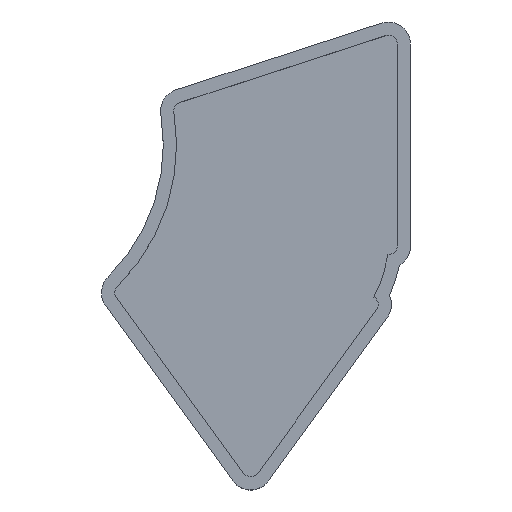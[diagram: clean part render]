
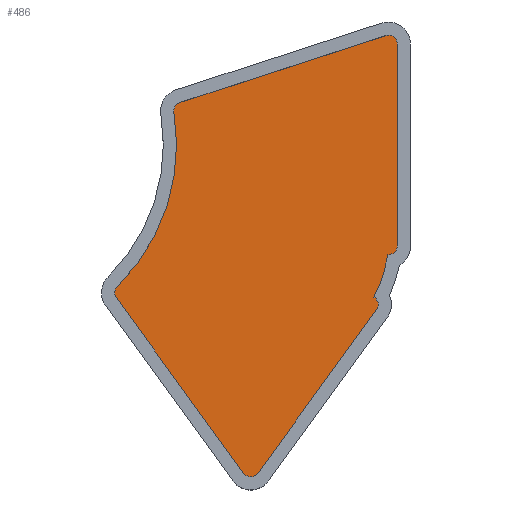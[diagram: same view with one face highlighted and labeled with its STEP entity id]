
A CAD part, top view. The second image highlights one B-rep face of the part: STEP entity #486.
In plain terms, the highlighted planar face has unit normal (0, 0, 1).
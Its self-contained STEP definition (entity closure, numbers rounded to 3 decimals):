
#20=PLANE('',#543);
#39=FACE_OUTER_BOUND('',#66,.T.);
#66=EDGE_LOOP('',(#362,#363,#364,#365,#366,#367,#368,#369,#370,#371,#372,
#373));
#84=LINE('',#746,#124);
#88=LINE('',#758,#128);
#94=LINE('',#782,#134);
#98=LINE('',#794,#138);
#124=VECTOR('',#586,9.9);
#128=VECTOR('',#598,9.9);
#134=VECTOR('',#624,9.9);
#138=VECTOR('',#636,9.9);
#162=CIRCLE('',#516,1.98);
#164=CIRCLE('',#520,1.98);
#166=CIRCLE('',#524,1.98);
#168=CIRCLE('',#527,29.928);
#170=CIRCLE('',#530,1.98);
#172=CIRCLE('',#534,1.98);
#174=CIRCLE('',#538,1.98);
#176=CIRCLE('',#541,44.55);
#194=VERTEX_POINT('',#736);
#195=VERTEX_POINT('',#737);
#198=VERTEX_POINT('',#745);
#200=VERTEX_POINT('',#751);
#202=VERTEX_POINT('',#757);
#204=VERTEX_POINT('',#763);
#206=VERTEX_POINT('',#769);
#208=VERTEX_POINT('',#775);
#210=VERTEX_POINT('',#781);
#212=VERTEX_POINT('',#787);
#214=VERTEX_POINT('',#793);
#216=VERTEX_POINT('',#799);
#242=EDGE_CURVE('',#194,#195,#162,.F.);
#246=EDGE_CURVE('',#198,#194,#84,.F.);
#249=EDGE_CURVE('',#200,#198,#164,.F.);
#252=EDGE_CURVE('',#202,#200,#88,.F.);
#255=EDGE_CURVE('',#204,#202,#166,.F.);
#258=EDGE_CURVE('',#206,#204,#168,.F.);
#261=EDGE_CURVE('',#208,#206,#170,.F.);
#264=EDGE_CURVE('',#210,#208,#94,.F.);
#267=EDGE_CURVE('',#212,#210,#172,.F.);
#270=EDGE_CURVE('',#214,#212,#98,.F.);
#273=EDGE_CURVE('',#216,#214,#174,.F.);
#276=EDGE_CURVE('',#195,#216,#176,.F.);
#362=ORIENTED_EDGE('',*,*,#276,.T.);
#363=ORIENTED_EDGE('',*,*,#273,.T.);
#364=ORIENTED_EDGE('',*,*,#270,.T.);
#365=ORIENTED_EDGE('',*,*,#267,.T.);
#366=ORIENTED_EDGE('',*,*,#264,.T.);
#367=ORIENTED_EDGE('',*,*,#261,.T.);
#368=ORIENTED_EDGE('',*,*,#258,.T.);
#369=ORIENTED_EDGE('',*,*,#255,.T.);
#370=ORIENTED_EDGE('',*,*,#252,.T.);
#371=ORIENTED_EDGE('',*,*,#249,.T.);
#372=ORIENTED_EDGE('',*,*,#246,.T.);
#373=ORIENTED_EDGE('',*,*,#242,.T.);
#486=ADVANCED_FACE('',(#39),#20,.T.);
#516=AXIS2_PLACEMENT_3D('',#738,#578,#579);
#520=AXIS2_PLACEMENT_3D('',#752,#591,#592);
#524=AXIS2_PLACEMENT_3D('',#764,#603,#604);
#527=AXIS2_PLACEMENT_3D('',#770,#610,#611);
#530=AXIS2_PLACEMENT_3D('',#776,#617,#618);
#534=AXIS2_PLACEMENT_3D('',#788,#629,#630);
#538=AXIS2_PLACEMENT_3D('',#800,#641,#642);
#541=AXIS2_PLACEMENT_3D('',#805,#648,#649);
#543=AXIS2_PLACEMENT_3D('',#807,#652,#653);
#578=DIRECTION('center_axis',(0.,0.,-1.));
#579=DIRECTION('ref_axis',(-0.855,0.519,0.));
#586=DIRECTION('',(0.951,0.309,0.));
#591=DIRECTION('center_axis',(0.,0.,-1.));
#592=DIRECTION('ref_axis',(0.588,0.809,0.));
#598=DIRECTION('',(0.,-1.,0.));
#603=DIRECTION('center_axis',(0.,0.,-1.));
#604=DIRECTION('ref_axis',(0.588,-0.809,0.));
#610=DIRECTION('center_axis',(0.,0.,-1.));
#611=DIRECTION('ref_axis',(0.847,-0.531,0.));
#617=DIRECTION('center_axis',(0.,0.,-1.));
#618=DIRECTION('ref_axis',(0.951,0.309,0.));
#624=DIRECTION('',(-0.588,-0.809,0.));
#629=DIRECTION('center_axis',(0.,0.,-1.));
#630=DIRECTION('ref_axis',(0.,-1.,0.));
#636=DIRECTION('',(-0.588,0.809,0.));
#641=DIRECTION('center_axis',(0.,0.,-1.));
#642=DIRECTION('ref_axis',(-0.997,0.082,0.));
#648=DIRECTION('center_axis',(0.,0.,1.));
#649=DIRECTION('ref_axis',(0.626,-0.78,0.));
#652=DIRECTION('center_axis',(0.,0.,1.));
#653=DIRECTION('ref_axis',(-0.309,0.951,0.));
#736=CARTESIAN_POINT('',(-173.779,9.17,8.97));
#737=CARTESIAN_POINT('',(-175.12,6.962,8.97));
#738=CARTESIAN_POINT('Origin',(-173.167,7.287,8.97));
#745=CARTESIAN_POINT('',(-127.61,24.171,8.97));
#746=CARTESIAN_POINT('',(-172.574,9.561,8.97));
#751=CARTESIAN_POINT('',(-125.018,22.288,8.97));
#752=CARTESIAN_POINT('Origin',(-126.998,22.288,8.97));
#757=CARTESIAN_POINT('',(-125.018,-22.97,8.97));
#758=CARTESIAN_POINT('',(-125.018,-11.655,8.97));
#763=CARTESIAN_POINT('',(-127.17,-24.942,8.97));
#764=CARTESIAN_POINT('Origin',(-126.998,-22.97,8.97));
#769=CARTESIAN_POINT('',(-130.269,-34.449,8.97));
#770=CARTESIAN_POINT('Origin',(-156.775,-20.552,8.97));
#775=CARTESIAN_POINT('',(-129.679,-37.315,8.97));
#776=CARTESIAN_POINT('Origin',(-131.281,-36.151,8.97));
#781=CARTESIAN_POINT('',(-156.281,-73.929,8.97));
#782=CARTESIAN_POINT('',(-149.63,-64.775,8.97));
#787=CARTESIAN_POINT('',(-159.484,-73.929,8.97));
#788=CARTESIAN_POINT('Origin',(-157.882,-72.765,8.97));
#793=CARTESIAN_POINT('',(-188.019,-34.655,8.97));
#794=CARTESIAN_POINT('',(-201.541,-16.043,8.97));
#799=CARTESIAN_POINT('',(-187.806,-32.08,8.97));
#800=CARTESIAN_POINT('Origin',(-186.417,-33.491,8.97));
#805=CARTESIAN_POINT('Origin',(-219.068,-0.341,8.97));
#807=CARTESIAN_POINT('Origin',(-219.068,-0.341,8.97));
